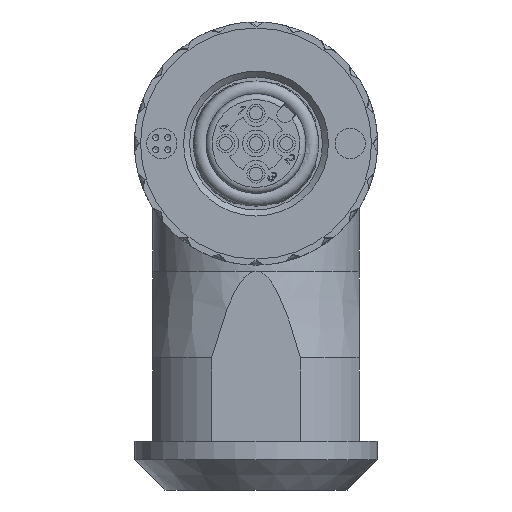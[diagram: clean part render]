
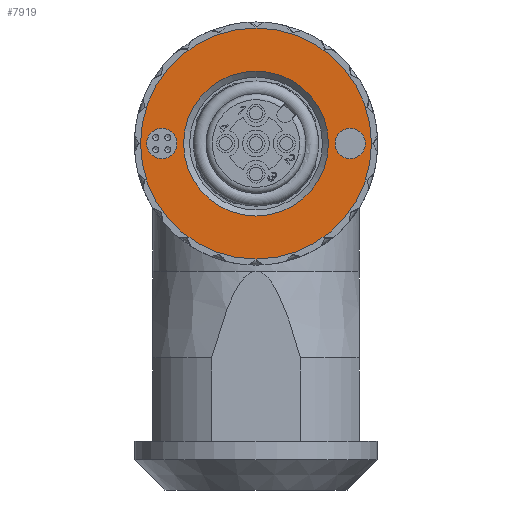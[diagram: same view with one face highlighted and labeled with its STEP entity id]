
A CAD part, front view. The second image highlights one B-rep face of the part: STEP entity #7919.
In plain terms, the highlighted planar face has unit normal (0, -1, 0).
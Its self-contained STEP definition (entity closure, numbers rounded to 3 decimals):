
#276=FACE_BOUND('',#2398,.T.);
#277=FACE_BOUND('',#2399,.T.);
#278=FACE_BOUND('',#2400,.T.);
#1954=FACE_OUTER_BOUND('',#2397,.T.);
#2397=EDGE_LOOP('',(#5824));
#2398=EDGE_LOOP('',(#5825));
#2399=EDGE_LOOP('',(#5826));
#2400=EDGE_LOOP('',(#5827));
#2813=CIRCLE('',#8468,1.25);
#2815=CIRCLE('',#8472,1.25);
#2828=CIRCLE('',#8522,5.96);
#2829=CIRCLE('',#8524,9.5);
#3322=VERTEX_POINT('',#12330);
#3324=VERTEX_POINT('',#12336);
#3357=VERTEX_POINT('',#12474);
#3358=VERTEX_POINT('',#12477);
#4221=EDGE_CURVE('',#3322,#3322,#2813,.T.);
#4223=EDGE_CURVE('',#3324,#3324,#2815,.T.);
#4291=EDGE_CURVE('',#3357,#3357,#2828,.T.);
#4292=EDGE_CURVE('',#3358,#3358,#2829,.T.);
#5824=ORIENTED_EDGE('',*,*,#4292,.F.);
#5825=ORIENTED_EDGE('',*,*,#4221,.T.);
#5826=ORIENTED_EDGE('',*,*,#4223,.T.);
#5827=ORIENTED_EDGE('',*,*,#4291,.F.);
#7162=PLANE('',#8523);
#7919=ADVANCED_FACE('',(#1954,#276,#277,#278),#7162,.T.);
#8468=AXIS2_PLACEMENT_3D('',#12331,#9767,#9768);
#8472=AXIS2_PLACEMENT_3D('',#12337,#9775,#9776);
#8522=AXIS2_PLACEMENT_3D('',#12475,#9930,#9931);
#8523=AXIS2_PLACEMENT_3D('',#12476,#9932,#9933);
#8524=AXIS2_PLACEMENT_3D('',#12478,#9934,#9935);
#9767=DIRECTION('center_axis',(0.,1.,0.));
#9768=DIRECTION('ref_axis',(1.,0.,0.));
#9775=DIRECTION('center_axis',(0.,1.,0.));
#9776=DIRECTION('ref_axis',(1.,0.,0.));
#9930=DIRECTION('center_axis',(0.,-1.,0.));
#9931=DIRECTION('ref_axis',(-1.,0.,0.));
#9932=DIRECTION('center_axis',(0.,-1.,0.));
#9933=DIRECTION('ref_axis',(0.,0.,1.));
#9934=DIRECTION('center_axis',(0.,1.,0.));
#9935=DIRECTION('ref_axis',(1.,0.,0.));
#12330=CARTESIAN_POINT('',(-9.,-14.6,0.));
#12331=CARTESIAN_POINT('Origin',(-7.75,-14.6,0.));
#12336=CARTESIAN_POINT('',(6.5,-14.6,0.));
#12337=CARTESIAN_POINT('Origin',(7.75,-14.6,0.));
#12474=CARTESIAN_POINT('',(5.96,-14.6,0.));
#12475=CARTESIAN_POINT('Origin',(0.,-14.6,0.));
#12476=CARTESIAN_POINT('Origin',(7.48,-14.6,0.));
#12477=CARTESIAN_POINT('',(9.5,-14.6,0.));
#12478=CARTESIAN_POINT('Origin',(0.,-14.6,0.));
